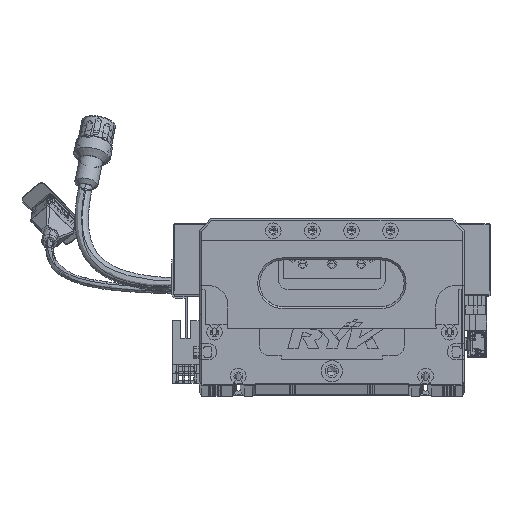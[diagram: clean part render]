
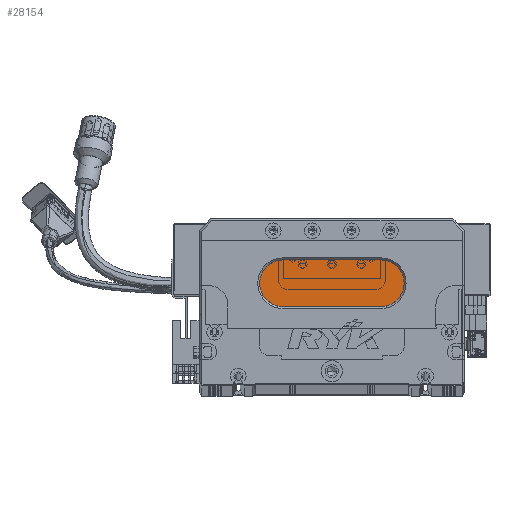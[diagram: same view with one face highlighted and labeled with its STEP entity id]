
A CAD part, top view. The second image highlights one B-rep face of the part: STEP entity #28154.
In plain terms, the highlighted planar face has unit normal (0, 0, 1) as drawn and (0, 0, -1) by its records, which use the part's own axes.
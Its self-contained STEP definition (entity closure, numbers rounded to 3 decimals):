
#930 = CIRCLE ( 'NONE', #141091, 12. ) ;
#2884 = DIRECTION ( 'NONE',  ( 0., 0., -1. ) ) ;
#4450 = CARTESIAN_POINT ( 'NONE',  ( 93., 64., 13. ) ) ;
#4678 = CIRCLE ( 'NONE', #85527, 12. ) ;
#13703 = DIRECTION ( 'NONE',  ( -1., 0., 0. ) ) ;
#16720 = FACE_OUTER_BOUND ( 'NONE', #96407, .T. ) ;
#16817 = VERTEX_POINT ( 'NONE', #4450 ) ;
#22156 = EDGE_CURVE ( 'NONE', #29229, #107256, #89948, .T. ) ;
#24966 = EDGE_CURVE ( 'NONE', #107256, #16817, #112144, .T. ) ;
#28154 = ADVANCED_FACE ( 'NONE', ( #16720 ), #80876, .T. ) ;
#29157 = ORIENTED_EDGE ( 'NONE', *, *, #35148, .T. ) ;
#29229 = VERTEX_POINT ( 'NONE', #112375 ) ;
#32548 = DIRECTION ( 'NONE',  ( -1., 0., 0. ) ) ;
#33851 = CARTESIAN_POINT ( 'NONE',  ( 93., 64., 13. ) ) ;
#35148 = EDGE_CURVE ( 'NONE', #106760, #73130, #45590, .T. ) ;
#39577 = CARTESIAN_POINT ( 'NONE',  ( 43., 52., 13. ) ) ;
#45590 = LINE ( 'NONE', #77156, #124418 ) ;
#51734 = AXIS2_PLACEMENT_3D ( 'NONE', #69078, #2884, #13703 ) ;
#55972 = EDGE_CURVE ( 'NONE', #16817, #106760, #4678, .T. ) ;
#58905 = DIRECTION ( 'NONE',  ( 0., 0., -1. ) ) ;
#62572 = DIRECTION ( 'NONE',  ( 0., 0., -1. ) ) ;
#65996 = DIRECTION ( 'NONE',  ( -1., 0., 0. ) ) ;
#66561 = CARTESIAN_POINT ( 'NONE',  ( 43., 64., 13. ) ) ;
#69078 = CARTESIAN_POINT ( 'NONE',  ( 93., 52., 13. ) ) ;
#71978 = DIRECTION ( 'NONE',  ( -1., 0., 0. ) ) ;
#73130 = VERTEX_POINT ( 'NONE', #73694 ) ;
#73694 = CARTESIAN_POINT ( 'NONE',  ( 43., 40., 13. ) ) ;
#75118 = ORIENTED_EDGE ( 'NONE', *, *, #22156, .T. ) ;
#77156 = CARTESIAN_POINT ( 'NONE',  ( 93., 40., 13. ) ) ;
#80876 = PLANE ( 'NONE',  #51734 ) ;
#85040 = AXIS2_PLACEMENT_3D ( 'NONE', #125955, #58905, #115649 ) ;
#85527 = AXIS2_PLACEMENT_3D ( 'NONE', #139074, #127307, #71978 ) ;
#89948 = CIRCLE ( 'NONE', #85040, 12. ) ;
#96407 = EDGE_LOOP ( 'NONE', ( #103327, #29157, #121021, #75118, #143123 ) ) ;
#99948 = DIRECTION ( 'NONE',  ( 1., 0., 0. ) ) ;
#103327 = ORIENTED_EDGE ( 'NONE', *, *, #55972, .T. ) ;
#106760 = VERTEX_POINT ( 'NONE', #135759 ) ;
#107256 = VERTEX_POINT ( 'NONE', #66561 ) ;
#108782 = EDGE_CURVE ( 'NONE', #73130, #29229, #930, .T. ) ;
#112144 = LINE ( 'NONE', #33851, #117304 ) ;
#112375 = CARTESIAN_POINT ( 'NONE',  ( 31., 52., 13. ) ) ;
#115649 = DIRECTION ( 'NONE',  ( -1., 0., 0. ) ) ;
#117304 = VECTOR ( 'NONE', #99948, 1000. ) ;
#121021 = ORIENTED_EDGE ( 'NONE', *, *, #108782, .T. ) ;
#124418 = VECTOR ( 'NONE', #32548, 1000. ) ;
#125955 = CARTESIAN_POINT ( 'NONE',  ( 43., 52., 13. ) ) ;
#127307 = DIRECTION ( 'NONE',  ( 0., 0., -1. ) ) ;
#135759 = CARTESIAN_POINT ( 'NONE',  ( 93., 40., 13. ) ) ;
#139074 = CARTESIAN_POINT ( 'NONE',  ( 93., 52., 13. ) ) ;
#141091 = AXIS2_PLACEMENT_3D ( 'NONE', #39577, #62572, #65996 ) ;
#143123 = ORIENTED_EDGE ( 'NONE', *, *, #24966, .T. ) ;
